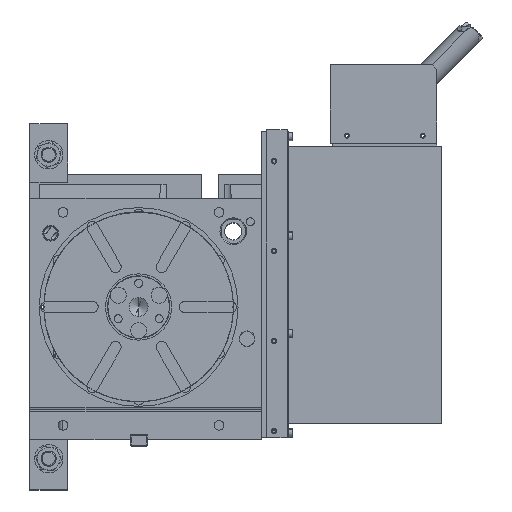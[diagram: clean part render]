
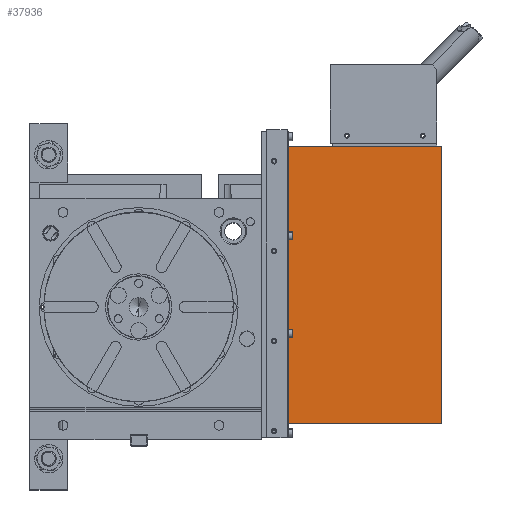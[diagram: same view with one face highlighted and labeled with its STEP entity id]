
A CAD part, top view. The second image highlights one B-rep face of the part: STEP entity #37936.
In plain terms, the highlighted planar face has unit normal (0, 0, 1).
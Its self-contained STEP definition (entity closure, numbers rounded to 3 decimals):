
#2254 = VECTOR ( 'NONE', #55565, 1000. ) ;
#3738 = ORIENTED_EDGE ( 'NONE', *, *, #20974, .F. ) ;
#6966 = CARTESIAN_POINT ( 'NONE',  ( -180.08, -123., 168.5 ) ) ;
#7197 = CARTESIAN_POINT ( 'NONE',  ( 320., -123., 168.5 ) ) ;
#10342 = DIRECTION ( 'NONE',  ( 0., 0., 1. ) ) ;
#10953 = EDGE_LOOP ( 'NONE', ( #3738, #20268, #19522, #14834 ) ) ;
#14679 = VERTEX_POINT ( 'NONE', #7197 ) ;
#14834 = ORIENTED_EDGE ( 'NONE', *, *, #22212, .T. ) ;
#15643 = CARTESIAN_POINT ( 'NONE',  ( 158., 170., 168.5 ) ) ;
#18750 = PLANE ( 'NONE',  #23015 ) ;
#19522 = ORIENTED_EDGE ( 'NONE', *, *, #48569, .T. ) ;
#20268 = ORIENTED_EDGE ( 'NONE', *, *, #37319, .F. ) ;
#20600 = VECTOR ( 'NONE', #53747, 1000. ) ;
#20852 = DIRECTION ( 'NONE',  ( 1., 0., 0. ) ) ;
#20974 = EDGE_CURVE ( 'NONE', #48986, #14679, #58985, .T. ) ;
#22212 = EDGE_CURVE ( 'NONE', #53585, #14679, #30098, .T. ) ;
#23015 = AXIS2_PLACEMENT_3D ( 'NONE', #56404, #10342, #43639 ) ;
#23372 = FACE_OUTER_BOUND ( 'NONE', #10953, .T. ) ;
#30098 = LINE ( 'NONE', #6966, #48956 ) ;
#37027 = LINE ( 'NONE', #60191, #2254 ) ;
#37319 = EDGE_CURVE ( 'NONE', #48905, #48986, #37027, .T. ) ;
#37936 = ADVANCED_FACE ( 'NONE', ( #23372 ), #18750, .T. ) ;
#39852 = CARTESIAN_POINT ( 'NONE',  ( 320., 170., 168.5 ) ) ;
#43639 = DIRECTION ( 'NONE',  ( -1., 0., 0. ) ) ;
#48569 = EDGE_CURVE ( 'NONE', #48905, #53585, #52086, .T. ) ;
#48905 = VERTEX_POINT ( 'NONE', #60882 ) ;
#48956 = VECTOR ( 'NONE', #20852, 1000. ) ;
#48986 = VERTEX_POINT ( 'NONE', #39852 ) ;
#49443 = CARTESIAN_POINT ( 'NONE',  ( 320., 170., 168.5 ) ) ;
#52086 = LINE ( 'NONE', #15643, #59939 ) ;
#52690 = DIRECTION ( 'NONE',  ( 0., -1., 0. ) ) ;
#53585 = VERTEX_POINT ( 'NONE', #58872 ) ;
#53747 = DIRECTION ( 'NONE',  ( 0., -1., 0. ) ) ;
#55565 = DIRECTION ( 'NONE',  ( 1., 0., 0. ) ) ;
#56404 = CARTESIAN_POINT ( 'NONE',  ( -180.08, 170., 168.5 ) ) ;
#58872 = CARTESIAN_POINT ( 'NONE',  ( 158., -123., 168.5 ) ) ;
#58985 = LINE ( 'NONE', #49443, #20600 ) ;
#59939 = VECTOR ( 'NONE', #52690, 1000. ) ;
#60191 = CARTESIAN_POINT ( 'NONE',  ( -180.08, 170., 168.5 ) ) ;
#60882 = CARTESIAN_POINT ( 'NONE',  ( 158., 170., 168.5 ) ) ;
